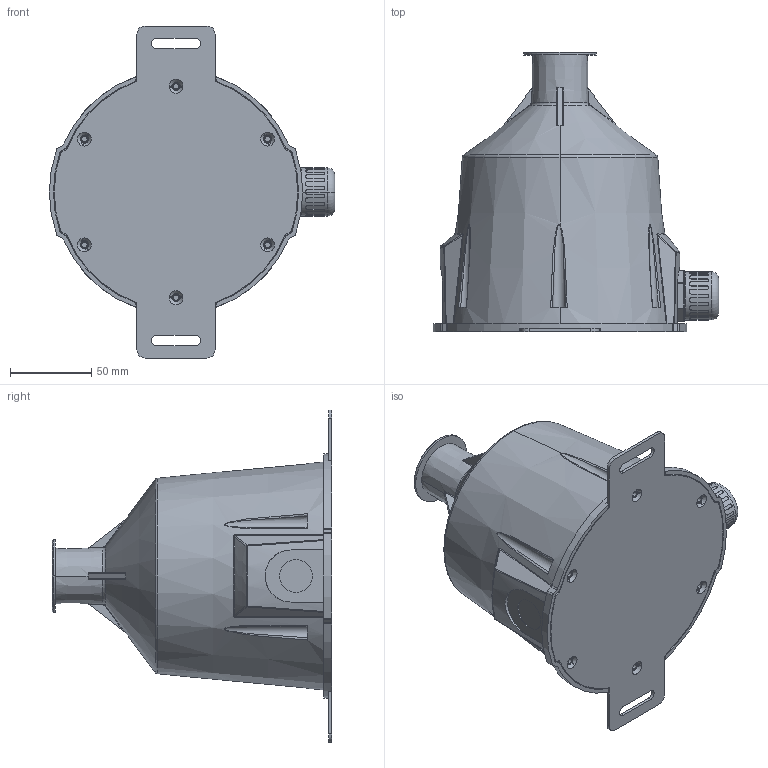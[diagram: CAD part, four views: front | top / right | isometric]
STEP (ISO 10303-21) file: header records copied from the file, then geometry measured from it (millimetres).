
FILE_DESCRIPTION((''),'2;1');
FILE_NAME('4AC-01_ASM','2024-11-12T',('Administrator'),(''),'CREO PARAMETRIC BY PTC INC, 2015200','CREO PARAMETRIC BY PTC INC, 2015200','');
FILE_SCHEMA(('CONFIG_CONTROL_DESIGN'));
Length unit declared in the file: millimetre
Products named in the file (25): 4L-DT_23; 4L-MG_9; 4L-FSQ_5; LUO-GAN-2_2; LUO-MAO-1_2; DIAN-QUAN-5_2; PG11_ASM_4_ASM; 4YB-BL_2; 4L-B-OXQ_7; 4AC_OXINGQUAN_1; 4AC_ASM_32_ASM; 4AC-A; 4AC-ANZB; 4AC-C-FSQ; PG11LUOMU; 4AC-S; 4AC-GYB; B91; 4AC-DQ; _S__25______ANY; _S__29______ANY; _S__27______ANY; _S__26______ANY; PRODUCT_62766_ANY_ASM; 4AC-01_ASM
Assembly tree (24 placements, depth 4):
  4AC-01_ASM
    4AC_ASM_32_ASM
      4L-DT_23
      4L-MG_9
      4L-FSQ_5
      PG11_ASM_4_ASM
        LUO-GAN-2_2
        LUO-MAO-1_2
        DIAN-QUAN-5_2
      4YB-BL_2
      4L-B-OXQ_7
      4AC_OXINGQUAN_1
    4AC-A
    4AC-ANZB
    4AC-C-FSQ
    PG11LUOMU
    4AC-S
    4AC-GYB
    B91
    4AC-DQ
    PRODUCT_62766_ANY_ASM
      _S__25______ANY
      _S__29______ANY
      _S__27______ANY
      _S__26______ANY
Bounding box: 175.35 x 171.8 x 204 mm (x, y, z)
Volume: 275238.4 mm3; surface area: 209567.6 mm2
Topology: 21 solids, 21 shells, 1287 faces, 3319 edges, 2093 vertices
Faces by surface type: plane 450, cylinder 366, bspline 180, torus 162, cone 89, sphere 38, extrusion 2
Entity records: 61298 total; most frequent: CARTESIAN_POINT 31172, ORIENTED_EDGE 6588, DIRECTION 5801, EDGE_CURVE 3294, AXIS2_PLACEMENT_3D 2400, VERTEX_POINT 2093, EDGE_LOOP 1397, FACE_OUTER_BOUND 1287
